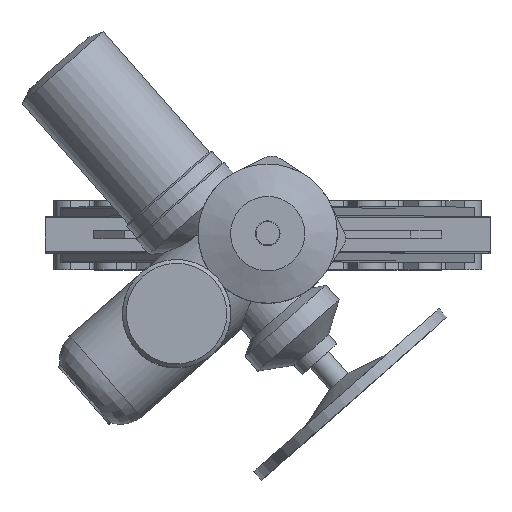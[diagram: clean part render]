
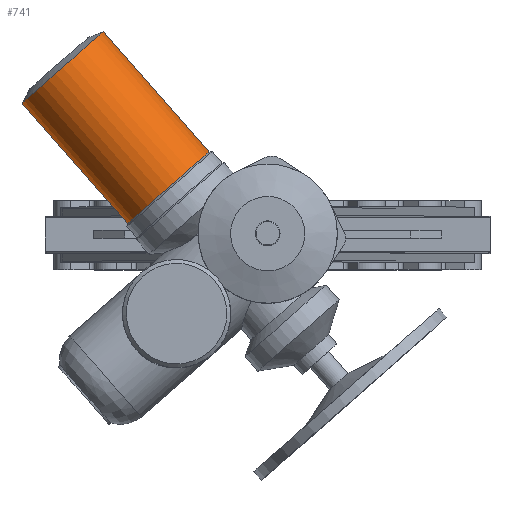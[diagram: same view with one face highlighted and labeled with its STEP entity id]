
A CAD part, top view. The second image highlights one B-rep face of the part: STEP entity #741.
In plain terms, the highlighted cylindrical face has radius 70 mm (diameter 140 mm), a full revolution.
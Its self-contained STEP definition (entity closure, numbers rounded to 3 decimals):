
#741=ADVANCED_FACE('',(#4227,#4229),#4231,.T.);
#4227=FACE_OUTER_BOUND('',#4228,.T.);
#4228=EDGE_LOOP('',(#6993));
#4229=FACE_OUTER_BOUND('',#4230,.T.);
#4230=EDGE_LOOP('',(#6994));
#4231=CYLINDRICAL_SURFACE('',#4232,70.);
#4232=AXIS2_PLACEMENT_3D('',#4233,#4234,#4235);
#4233=CARTESIAN_POINT('',(-265.237,215.126,1130.));
#4234=DIRECTION('',(0.661,-0.751,0.));
#4235=DIRECTION('',(0.,0.,1.));
#6993=ORIENTED_EDGE('',*,*,#8799,.F.);
#6994=ORIENTED_EDGE('',*,*,#8838,.T.);
#8799=EDGE_CURVE('',#9916,#9916,#9917,.T.);
#8838=EDGE_CURVE('',#9986,#9986,#9987,.T.);
#9916=VERTEX_POINT('',#12895);
#9917=CIRCLE('',#12896,70.);
#9986=VERTEX_POINT('',#13050);
#9987=CIRCLE('',#13051,70.);
#12895=CARTESIAN_POINT('',(-128.545,59.793,1200.));
#12896=AXIS2_PLACEMENT_3D('',#12897,#12898,#12899);
#12897=CARTESIAN_POINT('',(-128.545,59.793,1130.));
#12898=DIRECTION('',(0.661,-0.751,0.));
#12899=DIRECTION('',(0.,0.,1.));
#13050=CARTESIAN_POINT('',(-265.237,215.126,1200.));
#13051=AXIS2_PLACEMENT_3D('',#13052,#13053,#13054);
#13052=CARTESIAN_POINT('',(-265.237,215.126,1130.));
#13053=DIRECTION('',(0.661,-0.751,0.));
#13054=DIRECTION('',(0.,0.,1.));
